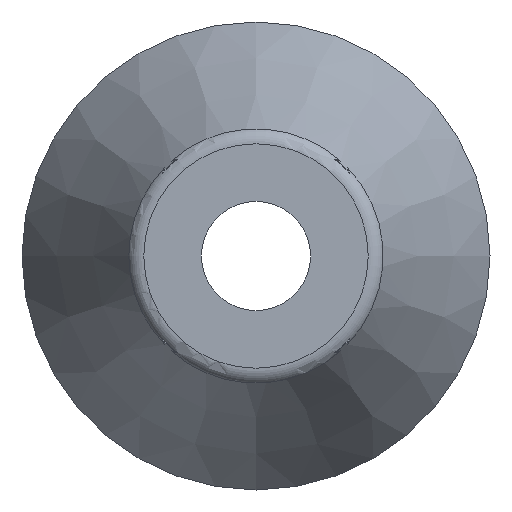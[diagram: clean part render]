
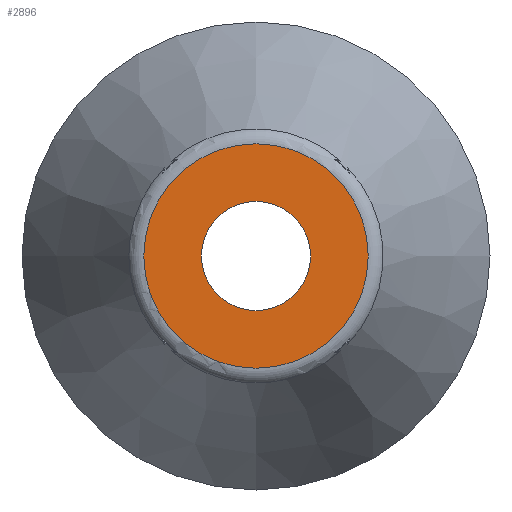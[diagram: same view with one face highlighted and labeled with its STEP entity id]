
A CAD part, left-side view. The second image highlights one B-rep face of the part: STEP entity #2896.
In plain terms, the highlighted planar face has unit normal (-1, 0, 0).
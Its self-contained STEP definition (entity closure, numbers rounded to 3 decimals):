
#45 = TOROIDAL_SURFACE('',#46,10.073,1.5);
#46 = AXIS2_PLACEMENT_3D('',#47,#48,#49);
#47 = CARTESIAN_POINT('',(1.5,0.,0.));
#48 = DIRECTION('',(-1.,-0.,-0.));
#49 = DIRECTION('',(0.,1.,0.));
#2065 = VERTEX_POINT('',#2066);
#2066 = CARTESIAN_POINT('',(0.,10.073,0.));
#2086 = EDGE_CURVE('',#2065,#2065,#2087,.T.);
#2087 = SURFACE_CURVE('',#2088,(#2093,#2100),.PCURVE_S1.);
#2088 = CIRCLE('',#2089,10.073);
#2089 = AXIS2_PLACEMENT_3D('',#2090,#2091,#2092);
#2090 = CARTESIAN_POINT('',(0.,0.,0.));
#2091 = DIRECTION('',(1.,0.,0.));
#2092 = DIRECTION('',(0.,1.,0.));
#2093 = PCURVE('',#45,#2094);
#2094 = DEFINITIONAL_REPRESENTATION('',(#2095),#2099);
#2095 = LINE('',#2096,#2097);
#2096 = CARTESIAN_POINT('',(-0.,1.571));
#2097 = VECTOR('',#2098,1.);
#2098 = DIRECTION('',(-1.,0.));
#2099 = ( GEOMETRIC_REPRESENTATION_CONTEXT(2) 
PARAMETRIC_REPRESENTATION_CONTEXT() REPRESENTATION_CONTEXT('2D SPACE',''
  ) );
#2100 = PCURVE('',#2101,#2106);
#2101 = PLANE('',#2102);
#2102 = AXIS2_PLACEMENT_3D('',#2103,#2104,#2105);
#2103 = CARTESIAN_POINT('',(0.,0.,0.));
#2104 = DIRECTION('',(1.,0.,0.));
#2105 = DIRECTION('',(-0.,1.,0.));
#2106 = DEFINITIONAL_REPRESENTATION('',(#2107),#2111);
#2107 = CIRCLE('',#2108,10.073);
#2108 = AXIS2_PLACEMENT_2D('',#2109,#2110);
#2109 = CARTESIAN_POINT('',(0.,0.));
#2110 = DIRECTION('',(1.,0.));
#2111 = ( GEOMETRIC_REPRESENTATION_CONTEXT(2) 
PARAMETRIC_REPRESENTATION_CONTEXT() REPRESENTATION_CONTEXT('2D SPACE',''
  ) );
#2896 = ADVANCED_FACE('',(#2897,#2900),#2101,.F.);
#2897 = FACE_BOUND('',#2898,.F.);
#2898 = EDGE_LOOP('',(#2899));
#2899 = ORIENTED_EDGE('',*,*,#2086,.T.);
#2900 = FACE_BOUND('',#2901,.F.);
#2901 = EDGE_LOOP('',(#2902));
#2902 = ORIENTED_EDGE('',*,*,#2903,.F.);
#2903 = EDGE_CURVE('',#2904,#2904,#2906,.T.);
#2904 = VERTEX_POINT('',#2905);
#2905 = CARTESIAN_POINT('',(0.,0.,-4.9));
#2906 = SURFACE_CURVE('',#2907,(#2912,#2919),.PCURVE_S1.);
#2907 = CIRCLE('',#2908,4.9);
#2908 = AXIS2_PLACEMENT_3D('',#2909,#2910,#2911);
#2909 = CARTESIAN_POINT('',(0.,0.,0.));
#2910 = DIRECTION('',(1.,0.,0.));
#2911 = DIRECTION('',(0.,0.,-1.));
#2912 = PCURVE('',#2101,#2913);
#2913 = DEFINITIONAL_REPRESENTATION('',(#2914),#2918);
#2914 = CIRCLE('',#2915,4.9);
#2915 = AXIS2_PLACEMENT_2D('',#2916,#2917);
#2916 = CARTESIAN_POINT('',(0.,0.));
#2917 = DIRECTION('',(0.,-1.));
#2918 = ( GEOMETRIC_REPRESENTATION_CONTEXT(2) 
PARAMETRIC_REPRESENTATION_CONTEXT() REPRESENTATION_CONTEXT('2D SPACE',''
  ) );
#2919 = PCURVE('',#2920,#2925);
#2920 = CYLINDRICAL_SURFACE('',#2921,4.9);
#2921 = AXIS2_PLACEMENT_3D('',#2922,#2923,#2924);
#2922 = CARTESIAN_POINT('',(-1.,0.,0.));
#2923 = DIRECTION('',(1.,0.,0.));
#2924 = DIRECTION('',(0.,0.,-1.));
#2925 = DEFINITIONAL_REPRESENTATION('',(#2926),#2930);
#2926 = LINE('',#2927,#2928);
#2927 = CARTESIAN_POINT('',(0.,1.));
#2928 = VECTOR('',#2929,1.);
#2929 = DIRECTION('',(1.,0.));
#2930 = ( GEOMETRIC_REPRESENTATION_CONTEXT(2) 
PARAMETRIC_REPRESENTATION_CONTEXT() REPRESENTATION_CONTEXT('2D SPACE',''
  ) );
